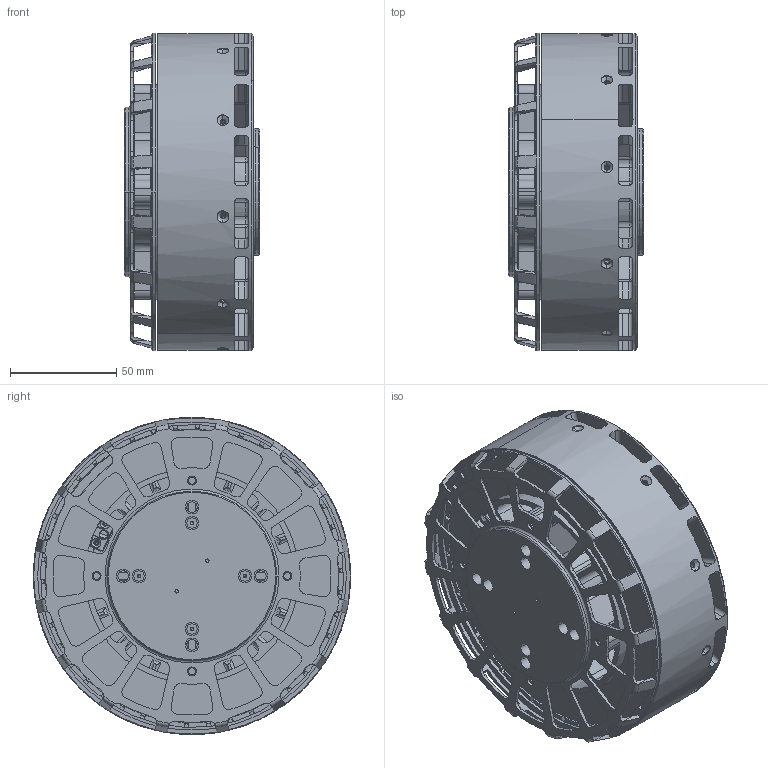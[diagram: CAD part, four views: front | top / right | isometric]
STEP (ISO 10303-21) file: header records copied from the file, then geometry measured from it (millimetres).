
FILE_DESCRIPTION (( 'STEP AP214' ), '1' );
FILE_NAME ('VL13825.STEP', '2025-06-16T06:42:13', ( 'PC-GY' ), ( '' ), 'SwSTEP 2.0', 'SolidWorks 2021', '' );
FILE_SCHEMA (( 'AUTOMOTIVE_DESIGN' ));
Length unit declared in the file: millimetre
Products named in the file (1): VL13825
Bounding box: 63.8 x 149.6 x 149.6 mm (x, y, z)
Volume: 452388 mm3; surface area: 212051 mm2
Topology: 1 solids, 5 shells, 2809 faces, 8269 edges, 5156 vertices
Faces by surface type: cylinder 1286, plane 640, torus 373, cone 321, sphere 152, bspline 37
Entity records: 132405 total; most frequent: CARTESIAN_POINT 27075, DIRECTION 16198, ORIENTED_EDGE 15994, EDGE_CURVE 7997, AXIS2_PLACEMENT_3D 6620, VERTEX_POINT 5080, CIRCLE 3847, EDGE_LOOP 3031
